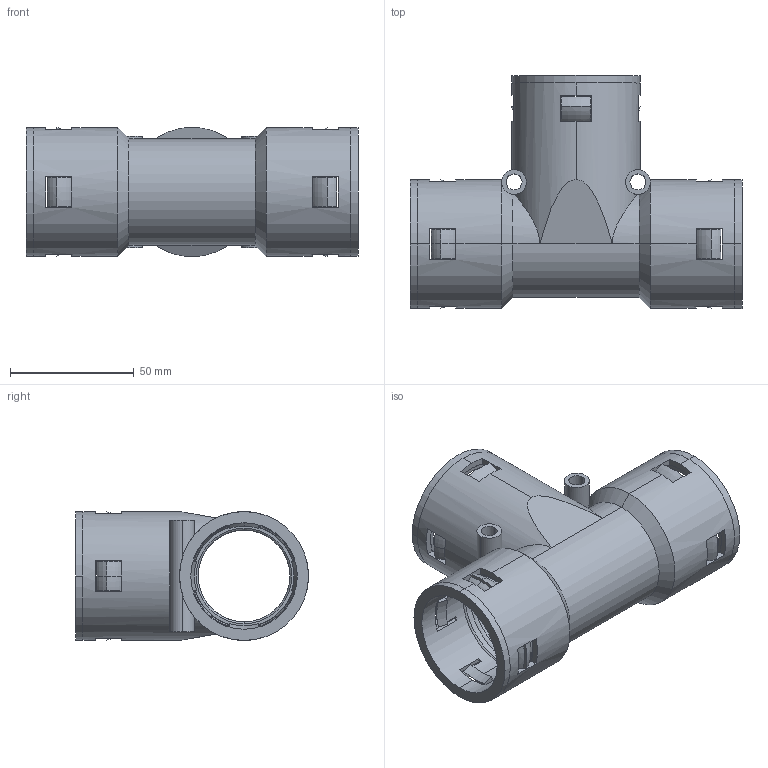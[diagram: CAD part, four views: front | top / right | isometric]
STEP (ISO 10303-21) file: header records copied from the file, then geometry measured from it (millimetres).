
FILE_DESCRIPTION (( 'STEP AP203' ), '1' );
FILE_NAME ('WQT-PA AD42.5-2X42.5.STEP', '2016-03-24T09:05:06', ( '' ), ( '' ), 'SwSTEP 2.0', 'SolidWorks 2010', '' );
FILE_SCHEMA (( 'CONFIG_CONTROL_DESIGN' ));
Length unit declared in the file: millimetre
Products named in the file (4): NSK-AD42.5; GFD-AD42.5; WQT-PA AD42.5-2X42.5-01; WQT-PA AD42.5-2X42.5
Assembly tree (7 placements, depth 2):
  WQT-PA AD42.5-2X42.5
    GFD-AD42.5  x3
    NSK-AD42.5  x3
    WQT-PA AD42.5-2X42.5-01
Bounding box: 134 x 94 x 52 mm (x, y, z)
Volume: 110641.7 mm3; surface area: 90676.9 mm2
Topology: 7 solids, 7 shells, 481 faces, 1248 edges, 768 vertices
Faces by surface type: plane 201, cone 143, torus 72, cylinder 65
Entity records: 8852 total; most frequent: CARTESIAN_POINT 2127, DIRECTION 1382, ORIENTED_EDGE 1288, EDGE_CURVE 644, AXIS2_PLACEMENT_3D 561, VERTEX_POINT 400, CIRCLE 310, EDGE_LOOP 276
